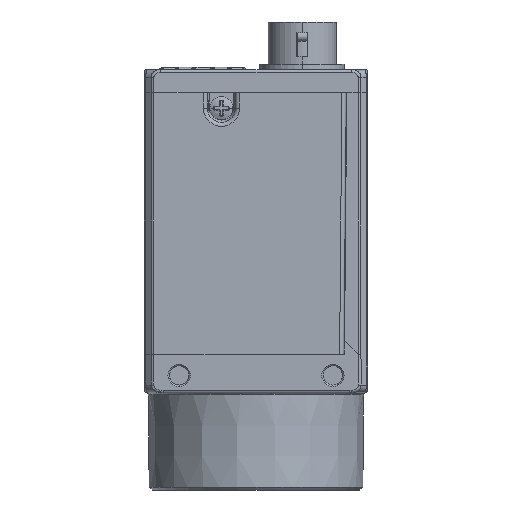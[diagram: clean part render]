
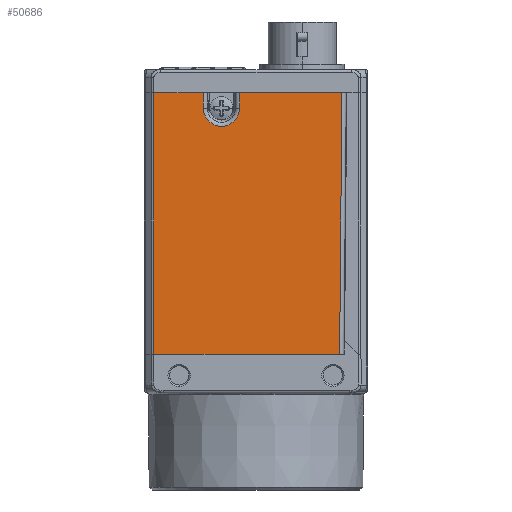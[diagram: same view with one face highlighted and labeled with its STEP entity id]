
A CAD part, left-side view. The second image highlights one B-rep face of the part: STEP entity #50686.
In plain terms, the highlighted planar face has unit normal (-1, 0, 0).
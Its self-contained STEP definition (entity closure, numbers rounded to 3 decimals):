
#12888=DIRECTION('',(0.,1.,0.));
#12889=VECTOR('',#12888,6.435);
#12890=CARTESIAN_POINT('',(-14.5,6.858,
33.5));
#12891=LINE('',#12890,#12889);
#12965=DIRECTION('',(0.,1.,0.));
#12966=VECTOR('',#12965,13.312);
#12967=CARTESIAN_POINT('',(-14.5,-11.17,
33.5));
#12968=LINE('',#12967,#12966);
#12973=CARTESIAN_POINT('',(-14.5,4.5,31.5));
#12974=DIRECTION('',(-1.,0.,0.));
#12975=DIRECTION('',(0.,1.,0.));
#12976=AXIS2_PLACEMENT_3D('',#12973,#12974,#12975);
#12978=DIRECTION('',(0.,0.,1.));
#12979=VECTOR('',#12978,2.);
#12980=CARTESIAN_POINT('',(-14.5,2.142,31.5));
#12981=LINE('',#12980,#12979);
#12982=DIRECTION('',(0.,0.009,-1.));
#12983=VECTOR('',#12982,34.001);
#12984=CARTESIAN_POINT('',(-14.5,-11.17,
33.5));
#12985=LINE('',#12984,#12983);
#13048=DIRECTION('',(0.,-1.,0.));
#13049=VECTOR('',#13048,24.166);
#13050=CARTESIAN_POINT('',(-14.5,13.293,
-0.5));
#13051=LINE('',#13050,#13049);
#13133=DIRECTION('',(0.,0.,-1.));
#13134=VECTOR('',#13133,34.);
#13135=CARTESIAN_POINT('',(-14.5,13.293,
33.5));
#13136=LINE('',#13135,#13134);
#13914=DIRECTION('',(0.,0.,1.));
#13915=VECTOR('',#13914,2.);
#13916=CARTESIAN_POINT('',(-14.5,6.858,31.5));
#13917=LINE('',#13916,#13915);
#26443=CARTESIAN_POINT('',(-14.5,2.142,33.5));
#26444=VERTEX_POINT('',#26443);
#26449=CARTESIAN_POINT('',(-14.5,6.858,33.5));
#26450=VERTEX_POINT('',#26449);
#26555=CARTESIAN_POINT('',(-14.5,-11.17,
33.5));
#26556=VERTEX_POINT('',#26555);
#26557=CARTESIAN_POINT('',(-14.5,2.142,31.5));
#26558=VERTEX_POINT('',#26557);
#26559=CARTESIAN_POINT('',(-14.5,13.293,
33.5));
#26560=CARTESIAN_POINT('',(-14.5,13.293,
-0.5));
#26561=VERTEX_POINT('',#26559);
#26562=VERTEX_POINT('',#26560);
#26563=CARTESIAN_POINT('',(-14.5,6.858,31.5));
#26564=VERTEX_POINT('',#26563);
#26565=CARTESIAN_POINT('',(-14.5,-10.873,
-0.5));
#26566=VERTEX_POINT('',#26565);
#50666=CARTESIAN_POINT('',(-14.5,1.061,16.5));
#50667=DIRECTION('',(1.,0.,0.));
#50668=DIRECTION('',(0.,-1.,0.));
#50669=AXIS2_PLACEMENT_3D('',#50666,#50667,#50668);
#50670=PLANE('',#50669);
#50672=ORIENTED_EDGE('',*,*,#50671,.F.);
#50674=ORIENTED_EDGE('',*,*,#50673,.F.);
#50675=ORIENTED_EDGE('',*,*,#50644,.F.);
#50677=ORIENTED_EDGE('',*,*,#50676,.F.);
#50679=ORIENTED_EDGE('',*,*,#50678,.T.);
#50681=ORIENTED_EDGE('',*,*,#50680,.T.);
#50682=ORIENTED_EDGE('',*,*,#50659,.F.);
#50683=ORIENTED_EDGE('',*,*,#48053,.T.);
#50684=EDGE_LOOP('',(#50672,#50674,#50675,#50677,#50679,#50681,#50682,#50683));
#50685=FACE_OUTER_BOUND('',#50684,.F.);
#50686=ADVANCED_FACE('',(#50685),#50670,.F.);
#12977=CIRCLE('',#12976,2.358);
#48053=EDGE_CURVE('',#26556,#26566,#12985,.T.);
#50644=EDGE_CURVE('',#26450,#26561,#12891,.T.);
#50659=EDGE_CURVE('',#26556,#26444,#12968,.T.);
#50671=EDGE_CURVE('',#26562,#26566,#13051,.T.);
#50673=EDGE_CURVE('',#26561,#26562,#13136,.T.);
#50676=EDGE_CURVE('',#26564,#26450,#13917,.T.);
#50678=EDGE_CURVE('',#26564,#26558,#12977,.T.);
#50680=EDGE_CURVE('',#26558,#26444,#12981,.T.);
